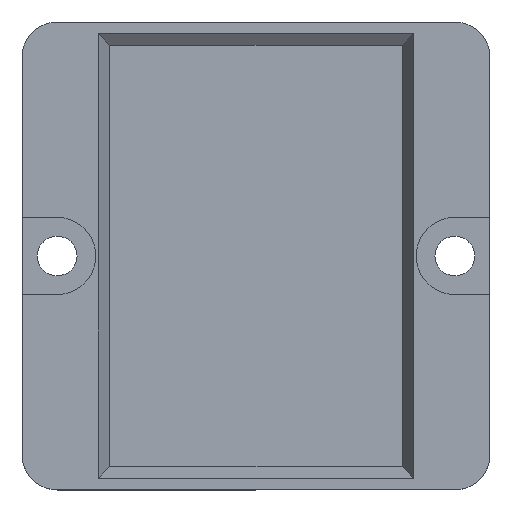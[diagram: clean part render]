
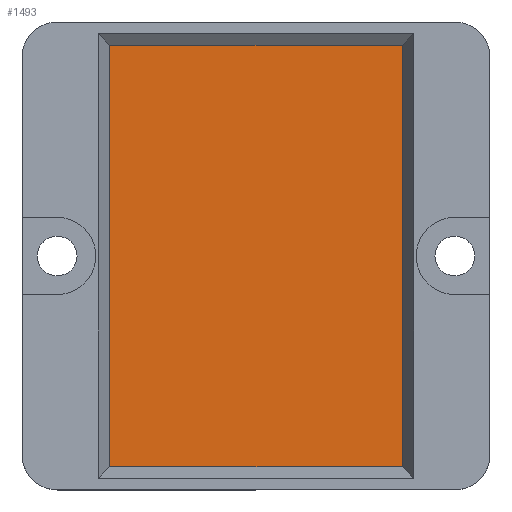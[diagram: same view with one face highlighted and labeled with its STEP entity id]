
A CAD part, top view. The second image highlights one B-rep face of the part: STEP entity #1493.
In plain terms, the highlighted planar face has unit normal (0, 0, 1).
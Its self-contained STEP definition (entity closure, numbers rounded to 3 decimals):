
#1391=CARTESIAN_POINT('',(12.517,-18.017,4.8));
#1392=VERTEX_POINT('',#1391);
#1393=CARTESIAN_POINT('',(12.517,18.017,4.8));
#1394=VERTEX_POINT('',#1393);
#1395=CARTESIAN_POINT('',(12.517,-18.017,4.8));
#1396=DIRECTION('',(0.0,1.0,0.0));
#1397=VECTOR('',#1396,36.035);
#1398=LINE('',#1395,#1397);
#1399=EDGE_CURVE('',#1392,#1394,#1398,.T.);
#1422=CARTESIAN_POINT('',(-12.517,18.017,4.8));
#1423=VERTEX_POINT('',#1422);
#1424=CARTESIAN_POINT('',(12.517,18.017,4.8));
#1425=DIRECTION('',(-1.0,0.0,0.0));
#1426=VECTOR('',#1425,25.035);
#1427=LINE('',#1424,#1426);
#1428=EDGE_CURVE('',#1394,#1423,#1427,.T.);
#1446=CARTESIAN_POINT('',(-12.517,-18.017,4.8));
#1447=VERTEX_POINT('',#1446);
#1448=CARTESIAN_POINT('',(-12.517,18.017,4.8));
#1449=DIRECTION('',(0.0,-1.0,0.0));
#1450=VECTOR('',#1449,36.035);
#1451=LINE('',#1448,#1450);
#1452=EDGE_CURVE('',#1423,#1447,#1451,.T.);
#1470=CARTESIAN_POINT('',(-12.517,-18.017,4.8));
#1471=DIRECTION('',(1.0,0.0,0.0));
#1472=VECTOR('',#1471,25.035);
#1473=LINE('',#1470,#1472);
#1474=EDGE_CURVE('',#1447,#1392,#1473,.T.);
#1482=CARTESIAN_POINT('',(0.0,0.,4.8));
#1483=DIRECTION('',(0.0,0.0,1.0));
#1484=DIRECTION('',(1.0,0.0,0.0));
#1485=AXIS2_PLACEMENT_3D('',#1482,#1483,#1484);
#1486=PLANE('',#1485);
#1487=ORIENTED_EDGE('',*,*,#1399,.T.);
#1488=ORIENTED_EDGE('',*,*,#1428,.T.);
#1489=ORIENTED_EDGE('',*,*,#1452,.T.);
#1490=ORIENTED_EDGE('',*,*,#1474,.T.);
#1491=EDGE_LOOP('',(#1487,#1488,#1489,#1490));
#1492=FACE_OUTER_BOUND('',#1491,.T.);
#1493=ADVANCED_FACE('',(#1492),#1486,.T.);
